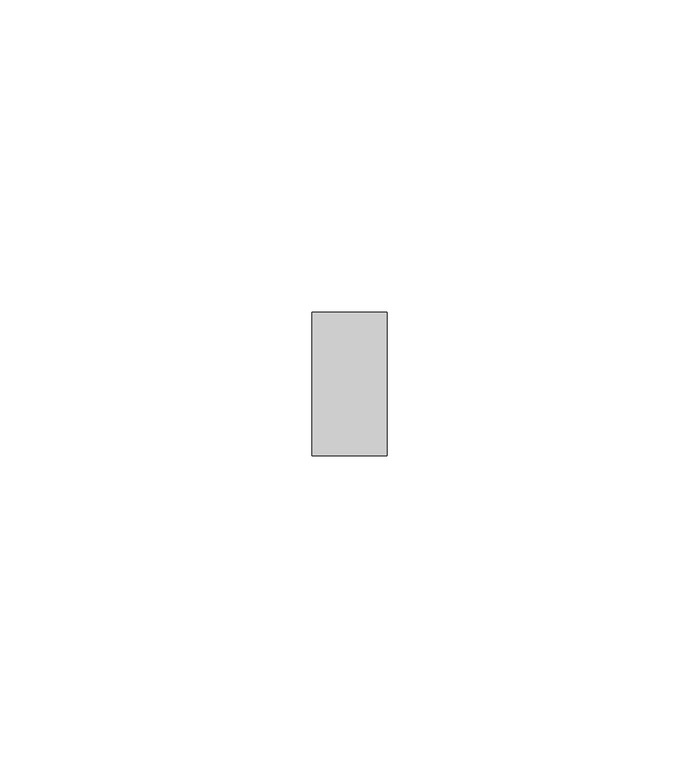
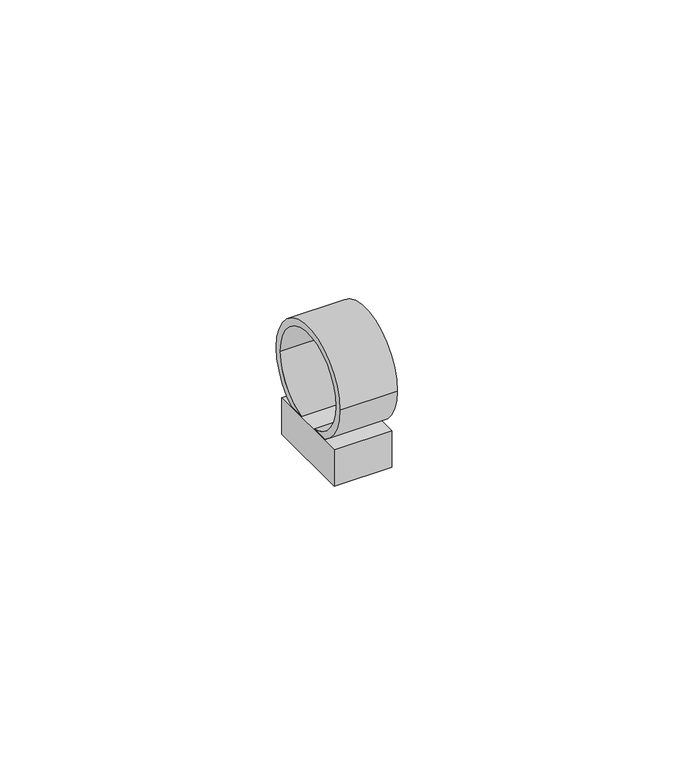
"""IFC4 building model written with IfcOpenShell, lengths in millimetres: cable carrier fitting geometry, Крепеж-клипса_для_труб_с_фиксатором : Крепеж-клипса для трубы D20мм с фиксатором."""

from ifc_helpers import new_model, si_unit, point, frame, origin, origin_2d, place, context, project, spatial, polyline, circle_curve, trimmed, segment, composite_curve, outline, extrude, source, transform, mapped, element, save


def cable_carrier_fitting_62cbf1a6(model_context):
    return source(origin(), model_context, "Body", "SweptSolid", [
        extrude(outline(polyline([(6.0, 9.5), (6.0, -9.5), (-6.0, -9.5), (-6.0, 9.5), (6.0, 9.5)])), frame((0.0, 0.0, -18.0), z_axis=(0.0, 0.0, 1.0), x_axis=(1.0, 0.0, 0.0)), (0.0, 0.0, 1.0), 8.0),
        extrude(outline(composite_curve([segment(trimmed(circle_curve(origin_2d(), 11.5), [point((-11.5, 0.0))], [point((11.5, 0.0))], False, "CARTESIAN"), True, "CONTINUOUS"), segment(trimmed(circle_curve(origin_2d(), 11.5), [point((11.5, 0.0))], [point((-11.5, 0.0))], False, "CARTESIAN"), True, "CONTINUOUS")], self_intersect=False), holes=[composite_curve([segment(trimmed(circle_curve(origin_2d(), 10.0), [point((-10.0, 0.0))], [point((10.0, 0.0))], True, "CARTESIAN"), True, "CONTINUOUS"), segment(trimmed(circle_curve(origin_2d(), 10.0), [point((10.0, 0.0))], [point((-10.0, 0.0))], True, "CARTESIAN"), True, "CONTINUOUS")], self_intersect=False)]), frame((-6.0, 0.0, 0.0), z_axis=(1.0, 0.0, 0.0), x_axis=(0.0, 1.0, 0.0)), (0.0, 0.0, 1.0), 12.0),
    ])


if __name__ == "__main__":
    model = new_model("IFC4")
    model_context = context("Model", 3, world=origin())
    ifc_project = project(units=[si_unit("LENGTHUNIT", "METRE", prefix="MILLI")], contexts=[model_context])
    site = spatial("IfcSite", under=ifc_project)
    building = spatial("IfcBuilding", under=site)
    placement = place(None, origin())
    cable_carrier_fitting_shape = cable_carrier_fitting_62cbf1a6(model_context)
    element("IfcCableCarrierFitting", 1, ObjectType="Крепеж-клипса_для_труб_с_фиксатором : Крепеж-клипса для трубы D20мм с фиксатором", at=placement, inside=building, context=model_context, shape_type="MappedRepresentation", body=[
        mapped(cable_carrier_fitting_shape, transform((0.0, 0.0, 0.0), x_axis=(1.0, 0.0, 0.0), y_axis=(0.0, 1.0, 0.0), z_axis=(0.0, 0.0, 1.0))),
    ])
    save(model, "model.ifc")
